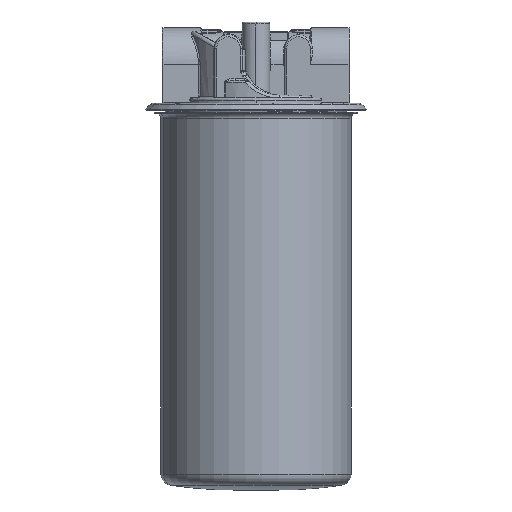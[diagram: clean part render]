
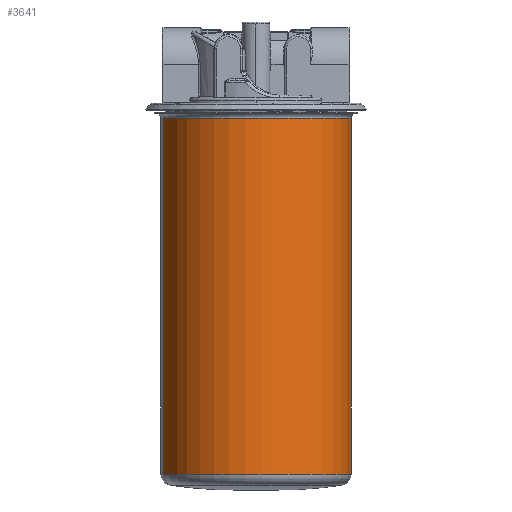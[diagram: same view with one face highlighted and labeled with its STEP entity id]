
A CAD part, left-side view. The second image highlights one B-rep face of the part: STEP entity #3641.
In plain terms, the highlighted cylindrical face has radius 48.15 mm (diameter 96.3 mm), a partial arc.
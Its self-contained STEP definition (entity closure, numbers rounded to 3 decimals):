
#1229 = EDGE_LOOP ( 'NONE', ( #13481, #47112, #16091, #12586 ) ) ;
#2883 = CARTESIAN_POINT ( 'NONE',  ( 0., 8., -48.15 ) ) ;
#3226 = EDGE_CURVE ( 'NONE', #33916, #51338, #11657, .T. ) ;
#3641 = ADVANCED_FACE ( 'NONE', ( #53989 ), #7658, .T. ) ;
#4394 = DIRECTION ( 'NONE',  ( 0., -1., 0. ) ) ;
#6090 = CARTESIAN_POINT ( 'NONE',  ( 0., 8., 48.15 ) ) ;
#6692 = DIRECTION ( 'NONE',  ( 0., -1., 0. ) ) ;
#7658 = CYLINDRICAL_SURFACE ( 'NONE', #18518, 48.15 ) ;
#8025 = CARTESIAN_POINT ( 'NONE',  ( 0., 187.85, 48.15 ) ) ;
#11657 = CIRCLE ( 'NONE', #33786, 48.15 ) ;
#12586 = ORIENTED_EDGE ( 'NONE', *, *, #42843, .F. ) ;
#13481 = ORIENTED_EDGE ( 'NONE', *, *, #44320, .F. ) ;
#14694 = DIRECTION ( 'NONE',  ( 0., -1., 0. ) ) ;
#15340 = VERTEX_POINT ( 'NONE', #6090 ) ;
#16091 = ORIENTED_EDGE ( 'NONE', *, *, #29709, .T. ) ;
#16633 = CARTESIAN_POINT ( 'NONE',  ( 0., 187.85, 0. ) ) ;
#16955 = LINE ( 'NONE', #40012, #39429 ) ;
#17092 = LINE ( 'NONE', #33991, #49492 ) ;
#18518 = AXIS2_PLACEMENT_3D ( 'NONE', #19268, #6692, #44615 ) ;
#19268 = CARTESIAN_POINT ( 'NONE',  ( 0., 0., 0. ) ) ;
#20894 = DIRECTION ( 'NONE',  ( 0., 0., -1. ) ) ;
#23862 = DIRECTION ( 'NONE',  ( 0., -1., 0. ) ) ;
#28884 = CIRCLE ( 'NONE', #42746, 48.15 ) ;
#29709 = EDGE_CURVE ( 'NONE', #51338, #40100, #17092, .T. ) ;
#33786 = AXIS2_PLACEMENT_3D ( 'NONE', #16633, #46222, #20894 ) ;
#33916 = VERTEX_POINT ( 'NONE', #8025 ) ;
#33991 = CARTESIAN_POINT ( 'NONE',  ( 0., 0., -48.15 ) ) ;
#39429 = VECTOR ( 'NONE', #14694, 1000. ) ;
#40012 = CARTESIAN_POINT ( 'NONE',  ( 0., 0., 48.15 ) ) ;
#40100 = VERTEX_POINT ( 'NONE', #2883 ) ;
#42746 = AXIS2_PLACEMENT_3D ( 'NONE', #49166, #23862, #53408 ) ;
#42843 = EDGE_CURVE ( 'NONE', #15340, #40100, #28884, .T. ) ;
#43475 = CARTESIAN_POINT ( 'NONE',  ( 0., 187.85, -48.15 ) ) ;
#44320 = EDGE_CURVE ( 'NONE', #33916, #15340, #16955, .T. ) ;
#44615 = DIRECTION ( 'NONE',  ( 0., 0., -1. ) ) ;
#46222 = DIRECTION ( 'NONE',  ( 0., -1., 0. ) ) ;
#47112 = ORIENTED_EDGE ( 'NONE', *, *, #3226, .T. ) ;
#49166 = CARTESIAN_POINT ( 'NONE',  ( 0., 8., 0. ) ) ;
#49492 = VECTOR ( 'NONE', #4394, 1000. ) ;
#51338 = VERTEX_POINT ( 'NONE', #43475 ) ;
#53408 = DIRECTION ( 'NONE',  ( 0., 0., -1. ) ) ;
#53989 = FACE_OUTER_BOUND ( 'NONE', #1229, .T. ) ;
